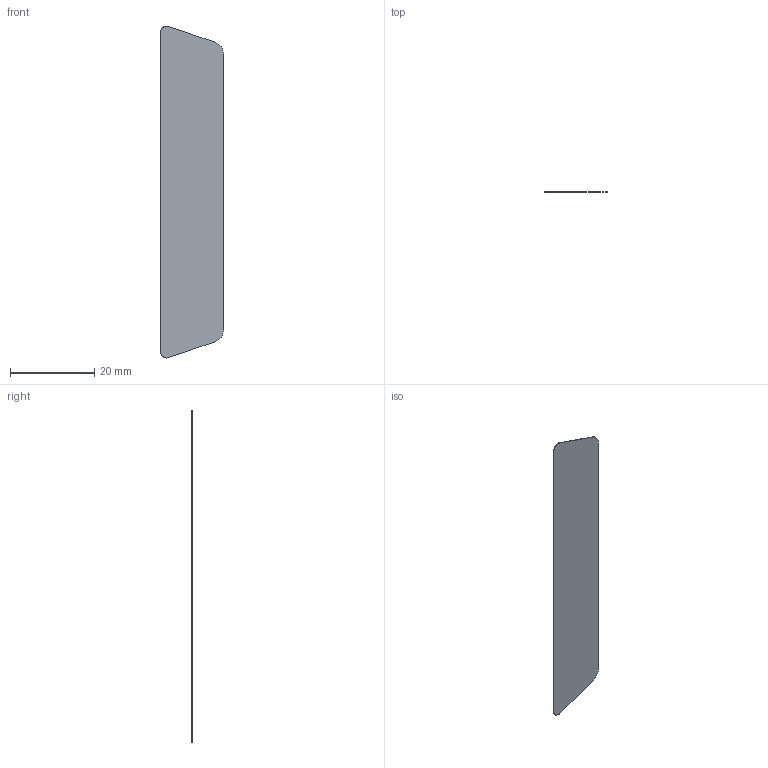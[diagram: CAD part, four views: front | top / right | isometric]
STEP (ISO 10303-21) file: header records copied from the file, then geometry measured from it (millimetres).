
FILE_DESCRIPTION(('STEP AP214'),'1');
FILE_NAME('tmp0.step','2025-05-02T11:19:45',(' '),(' '),'Spatial InterOp 3D',' ',' ');
FILE_SCHEMA(('AUTOMOTIVE_DESIGN { 1 0 10303 214 1 1 1 1 }'));
Length unit declared in the file: millimetre
Products named in the file (1): Thickness Data
Bounding box: 15 x 0.1 x 78.79 mm (x, y, z)
Volume: 111.9 mm3; surface area: 2255.4 mm2
Topology: 1 solids, 1 shells, 14 faces, 36 edges, 24 vertices
Faces by surface type: cylinder 8, plane 6
Entity records: 461 total; most frequent: DIRECTION 82, CARTESIAN_POINT 75, ORIENTED_EDGE 72, EDGE_CURVE 36, AXIS2_PLACEMENT_3D 31, VERTEX_POINT 24, LINE 20, VECTOR 20
